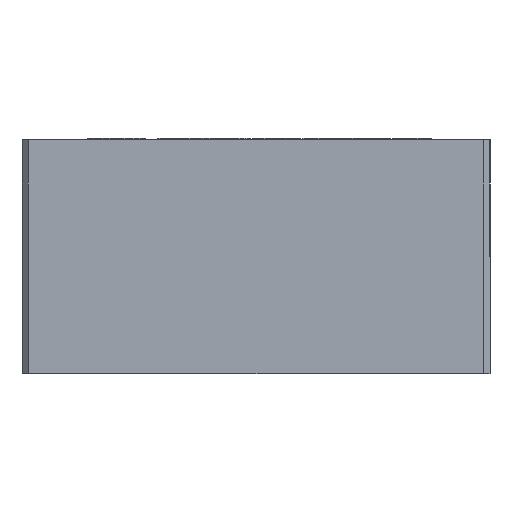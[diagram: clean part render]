
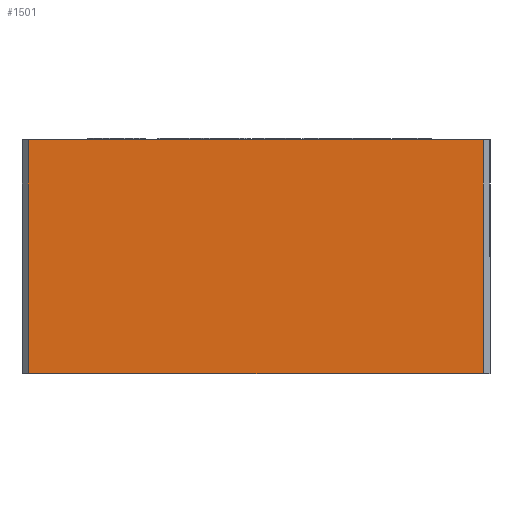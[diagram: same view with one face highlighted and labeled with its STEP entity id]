
A CAD part, front view. The second image highlights one B-rep face of the part: STEP entity #1501.
In plain terms, the highlighted planar face has unit normal (0, -1, 0).
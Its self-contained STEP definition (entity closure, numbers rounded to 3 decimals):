
#853 = EDGE_CURVE ( 'NONE', #20198, #20004, #19074, .T. ) ;
#1501 = ADVANCED_FACE ( 'NONE', ( #13458 ), #4312, .F. ) ;
#1967 = VECTOR ( 'NONE', #13002, 1000. ) ;
#3921 = CARTESIAN_POINT ( 'NONE',  ( -17.5, 0., 9. ) ) ;
#4023 = DIRECTION ( 'NONE',  ( 1., 0., 0. ) ) ;
#4312 = PLANE ( 'NONE',  #17791 ) ;
#4874 = DIRECTION ( 'NONE',  ( 0., 0., 1. ) ) ;
#6156 = DIRECTION ( 'NONE',  ( 0., 0., 1. ) ) ;
#6681 = VERTEX_POINT ( 'NONE', #12946 ) ;
#9764 = EDGE_CURVE ( 'NONE', #20198, #6681, #18319, .T. ) ;
#12089 = LINE ( 'NONE', #19728, #1967 ) ;
#12150 = ORIENTED_EDGE ( 'NONE', *, *, #853, .T. ) ;
#12321 = ORIENTED_EDGE ( 'NONE', *, *, #19629, .T. ) ;
#12417 = EDGE_LOOP ( 'NONE', ( #14529, #12150, #12321, #14051 ) ) ;
#12817 = CARTESIAN_POINT ( 'NONE',  ( -17.5, 0., 9. ) ) ;
#12946 = CARTESIAN_POINT ( 'NONE',  ( 17.5, 0., 9. ) ) ;
#13002 = DIRECTION ( 'NONE',  ( 1., 0., 0. ) ) ;
#13056 = EDGE_CURVE ( 'NONE', #18745, #6681, #18968, .T. ) ;
#13458 = FACE_OUTER_BOUND ( 'NONE', #12417, .T. ) ;
#13703 = CARTESIAN_POINT ( 'NONE',  ( -17.5, 0., -9. ) ) ;
#14051 = ORIENTED_EDGE ( 'NONE', *, *, #13056, .T. ) ;
#14170 = CARTESIAN_POINT ( 'NONE',  ( -18., 0., 9. ) ) ;
#14445 = VECTOR ( 'NONE', #4874, 1000. ) ;
#14529 = ORIENTED_EDGE ( 'NONE', *, *, #9764, .F. ) ;
#14675 = CARTESIAN_POINT ( 'NONE',  ( -18., 0., 9. ) ) ;
#14714 = CARTESIAN_POINT ( 'NONE',  ( 17.5, 0., -9. ) ) ;
#15786 = DIRECTION ( 'NONE',  ( 0., 0., -1. ) ) ;
#16785 = CARTESIAN_POINT ( 'NONE',  ( 17.5, 0., 9. ) ) ;
#17791 = AXIS2_PLACEMENT_3D ( 'NONE', #14675, #21399, #6156 ) ;
#18065 = VECTOR ( 'NONE', #4023, 1000. ) ;
#18319 = LINE ( 'NONE', #14170, #18065 ) ;
#18745 = VERTEX_POINT ( 'NONE', #14714 ) ;
#18828 = VECTOR ( 'NONE', #15786, 1000. ) ;
#18968 = LINE ( 'NONE', #16785, #14445 ) ;
#19074 = LINE ( 'NONE', #3921, #18828 ) ;
#19629 = EDGE_CURVE ( 'NONE', #20004, #18745, #12089, .T. ) ;
#19728 = CARTESIAN_POINT ( 'NONE',  ( -18., 0., -9. ) ) ;
#20004 = VERTEX_POINT ( 'NONE', #13703 ) ;
#20198 = VERTEX_POINT ( 'NONE', #12817 ) ;
#21399 = DIRECTION ( 'NONE',  ( 0., 1., 0. ) ) ;
